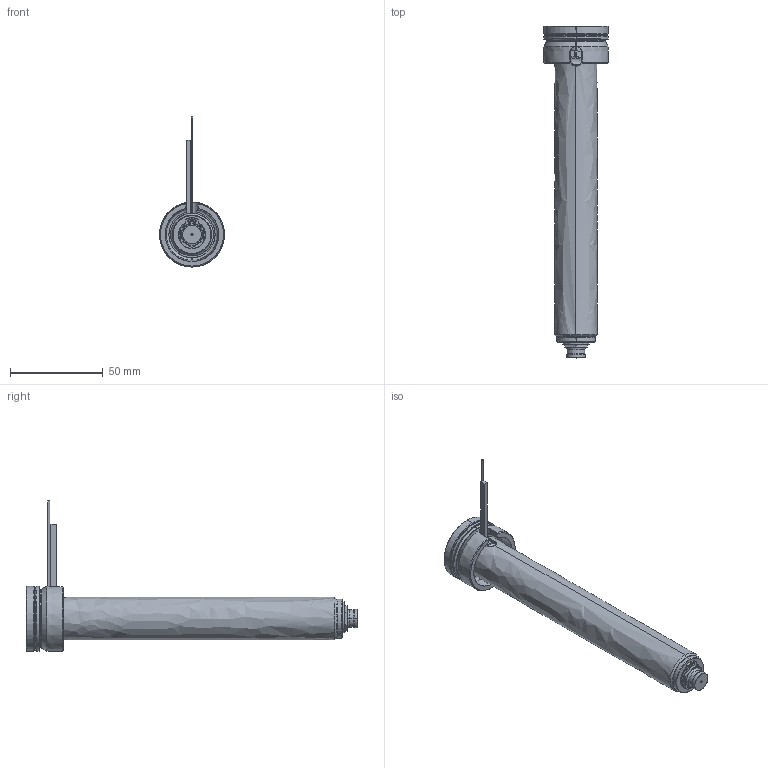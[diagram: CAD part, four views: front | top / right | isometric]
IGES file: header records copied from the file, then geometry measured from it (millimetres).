
Start section: SolidWorks IGES file using analytic representation for surfaces
Global section: file name: C:\Documents and Settings\ws-20\Desktop\TEM\UGEP3154-S-A-0 [Øf-0.30 P-0 ØC-7.0].IGS; native system: SolidWorks 2012; preprocessor: SolidWorks 2012; author: ws-20; date: 120404.082536; units: millimetre
Bounding box: 35 x 179 x 80.9 mm (x, y, z)
Surface area: 26265.6 mm2 (no closed solid volume)
Topology: 0 solids, 0 shells, 123 faces, 1924 edges, 1924 vertices
Faces by surface type: revolution 73, bspline 50
